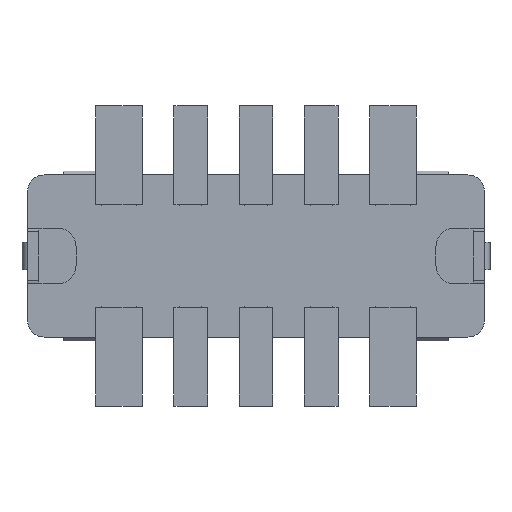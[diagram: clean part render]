
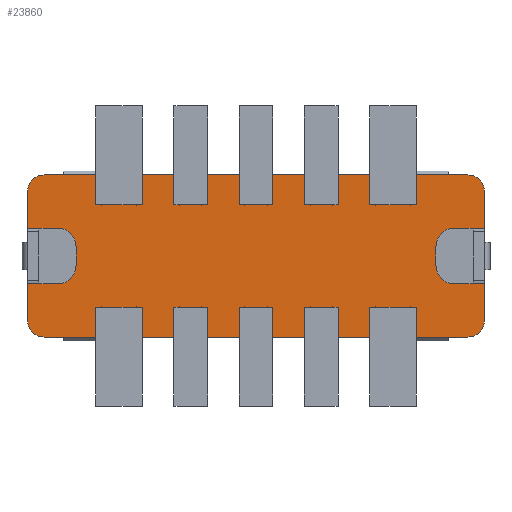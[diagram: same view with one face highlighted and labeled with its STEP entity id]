
A CAD part, front view. The second image highlights one B-rep face of the part: STEP entity #23860.
In plain terms, the highlighted planar face has unit normal (0, -1, 0) as drawn and (0, 1, 0) by its records, which use the part's own axes.
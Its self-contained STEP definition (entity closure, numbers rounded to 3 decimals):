
#15455=DIRECTION('',(1.,0.,0.));
#15456=VECTOR('',#15455,2.27);
#15457=CARTESIAN_POINT('',(-1.135,0.,-0.435));
#15458=LINE('',#15457,#15456);
#15549=CARTESIAN_POINT('',(1.135,0.,0.345));
#15550=DIRECTION('',(0.,1.,0.));
#15551=DIRECTION('',(0.,0.,1.));
#15552=AXIS2_PLACEMENT_3D('',#15549,#15550,#15551);
#15554=CARTESIAN_POINT('',(-1.135,0.,0.345));
#15555=DIRECTION('',(0.,1.,0.));
#15556=DIRECTION('',(-1.,0.,0.));
#15557=AXIS2_PLACEMENT_3D('',#15554,#15555,#15556);
#15559=CARTESIAN_POINT('',(-1.065,0.,0.05));
#15560=DIRECTION('',(0.,-1.,0.));
#15561=DIRECTION('',(1.,0.,0.));
#15562=AXIS2_PLACEMENT_3D('',#15559,#15560,#15561);
#15564=CARTESIAN_POINT('',(-1.065,0.,-0.05));
#15565=DIRECTION('',(0.,-1.,0.));
#15566=DIRECTION('',(0.,0.,-1.));
#15567=AXIS2_PLACEMENT_3D('',#15564,#15565,#15566);
#15569=CARTESIAN_POINT('',(-1.135,0.,-0.345));
#15570=DIRECTION('',(0.,1.,0.));
#15571=DIRECTION('',(0.,0.,-1.));
#15572=AXIS2_PLACEMENT_3D('',#15569,#15570,#15571);
#15574=CARTESIAN_POINT('',(1.135,0.,-0.345));
#15575=DIRECTION('',(0.,1.,0.));
#15576=DIRECTION('',(1.,0.,0.));
#15577=AXIS2_PLACEMENT_3D('',#15574,#15575,#15576);
#15579=CARTESIAN_POINT('',(1.065,0.,-0.05));
#15580=DIRECTION('',(0.,-1.,0.));
#15581=DIRECTION('',(-1.,0.,0.));
#15582=AXIS2_PLACEMENT_3D('',#15579,#15580,#15581);
#15584=CARTESIAN_POINT('',(1.065,0.,0.05));
#15585=DIRECTION('',(0.,-1.,0.));
#15586=DIRECTION('',(0.,0.,1.));
#15587=AXIS2_PLACEMENT_3D('',#15584,#15585,#15586);
#15589=DIRECTION('',(0.,0.,1.));
#15590=VECTOR('',#15589,0.195);
#15591=CARTESIAN_POINT('',(1.225,0.,-0.345));
#15592=LINE('',#15591,#15590);
#15593=DIRECTION('',(0.,0.,1.));
#15594=VECTOR('',#15593,0.195);
#15595=CARTESIAN_POINT('',(1.225,0.,0.15));
#15596=LINE('',#15595,#15594);
#15597=DIRECTION('',(-1.,0.,0.));
#15598=VECTOR('',#15597,0.16);
#15599=CARTESIAN_POINT('',(1.225,0.,-0.15));
#15600=LINE('',#15599,#15598);
#15639=DIRECTION('',(0.,0.,1.));
#15640=VECTOR('',#15639,0.1);
#15641=CARTESIAN_POINT('',(0.965,0.,-0.05));
#15642=LINE('',#15641,#15640);
#15655=DIRECTION('',(1.,0.,0.));
#15656=VECTOR('',#15655,0.16);
#15657=CARTESIAN_POINT('',(1.065,0.,0.15));
#15658=LINE('',#15657,#15656);
#15735=DIRECTION('',(0.,0.,-1.));
#15736=VECTOR('',#15735,0.195);
#15737=CARTESIAN_POINT('',(-1.225,0.,-0.15));
#15738=LINE('',#15737,#15736);
#15739=DIRECTION('',(0.,0.,-1.));
#15740=VECTOR('',#15739,0.195);
#15741=CARTESIAN_POINT('',(-1.225,0.,0.345));
#15742=LINE('',#15741,#15740);
#15747=DIRECTION('',(-1.,0.,0.));
#15748=VECTOR('',#15747,0.16);
#15749=CARTESIAN_POINT('',(-1.065,0.,-0.15));
#15750=LINE('',#15749,#15748);
#15785=DIRECTION('',(1.,0.,0.));
#15786=VECTOR('',#15785,0.16);
#15787=CARTESIAN_POINT('',(-1.225,0.,0.15));
#15788=LINE('',#15787,#15786);
#15793=DIRECTION('',(0.,0.,-1.));
#15794=VECTOR('',#15793,0.1);
#15795=CARTESIAN_POINT('',(-0.965,0.,0.05));
#15796=LINE('',#15795,#15794);
#15982=DIRECTION('',(-1.,0.,0.));
#15983=VECTOR('',#15982,2.27);
#15984=CARTESIAN_POINT('',(1.135,0.,0.435));
#15985=LINE('',#15984,#15983);
#22006=CARTESIAN_POINT('',(1.225,0.,0.345));
#22008=VERTEX_POINT('',#22006);
#22145=CARTESIAN_POINT('',(-1.135,0.,-0.435));
#22147=VERTEX_POINT('',#22145);
#22225=CARTESIAN_POINT('',(-0.965,0.,0.05));
#22226=CARTESIAN_POINT('',(-1.065,0.,0.15));
#22227=VERTEX_POINT('',#22225);
#22228=VERTEX_POINT('',#22226);
#22229=CARTESIAN_POINT('',(-1.225,0.,0.345));
#22231=VERTEX_POINT('',#22229);
#22495=CARTESIAN_POINT('',(-1.225,0.,-0.15));
#22496=VERTEX_POINT('',#22495);
#22560=CARTESIAN_POINT('',(1.225,0.,-0.345));
#22561=CARTESIAN_POINT('',(1.135,0.,-0.435));
#22562=VERTEX_POINT('',#22560);
#22563=VERTEX_POINT('',#22561);
#22640=CARTESIAN_POINT('',(-1.065,0.,-0.15));
#22641=VERTEX_POINT('',#22640);
#22738=CARTESIAN_POINT('',(0.965,0.,-0.05));
#22739=VERTEX_POINT('',#22738);
#22740=CARTESIAN_POINT('',(-1.135,0.,0.435));
#22741=VERTEX_POINT('',#22740);
#22770=CARTESIAN_POINT('',(1.065,0.,0.15));
#22771=CARTESIAN_POINT('',(1.225,0.,0.15));
#22772=VERTEX_POINT('',#22770);
#22773=VERTEX_POINT('',#22771);
#23004=CARTESIAN_POINT('',(0.965,0.,0.05));
#23005=VERTEX_POINT('',#23004);
#23133=CARTESIAN_POINT('',(-0.965,0.,-0.05));
#23134=VERTEX_POINT('',#23133);
#23198=CARTESIAN_POINT('',(1.225,0.,-0.15));
#23200=VERTEX_POINT('',#23198);
#23245=CARTESIAN_POINT('',(-1.225,0.,-0.345));
#23246=VERTEX_POINT('',#23245);
#23307=CARTESIAN_POINT('',(1.135,0.,0.435));
#23308=VERTEX_POINT('',#23307);
#23339=CARTESIAN_POINT('',(1.065,0.,-0.15));
#23340=VERTEX_POINT('',#23339);
#23426=CARTESIAN_POINT('',(-1.225,0.,0.15));
#23427=VERTEX_POINT('',#23426);
#23815=CARTESIAN_POINT('',(0.,0.,0.));
#23816=DIRECTION('',(0.,-1.,0.));
#23817=DIRECTION('',(0.,0.,-1.));
#23818=AXIS2_PLACEMENT_3D('',#23815,#23816,#23817);
#23819=PLANE('',#23818);
#23821=ORIENTED_EDGE('',*,*,#23820,.T.);
#23823=ORIENTED_EDGE('',*,*,#23822,.F.);
#23825=ORIENTED_EDGE('',*,*,#23824,.T.);
#23827=ORIENTED_EDGE('',*,*,#23826,.F.);
#23829=ORIENTED_EDGE('',*,*,#23828,.T.);
#23831=ORIENTED_EDGE('',*,*,#23830,.T.);
#23833=ORIENTED_EDGE('',*,*,#23832,.F.);
#23835=ORIENTED_EDGE('',*,*,#23834,.T.);
#23837=ORIENTED_EDGE('',*,*,#23836,.F.);
#23839=ORIENTED_EDGE('',*,*,#23838,.T.);
#23841=ORIENTED_EDGE('',*,*,#23840,.T.);
#23842=ORIENTED_EDGE('',*,*,#23804,.F.);
#23843=ORIENTED_EDGE('',*,*,#23681,.T.);
#23845=ORIENTED_EDGE('',*,*,#23844,.F.);
#23847=ORIENTED_EDGE('',*,*,#23846,.T.);
#23849=ORIENTED_EDGE('',*,*,#23848,.T.);
#23851=ORIENTED_EDGE('',*,*,#23850,.F.);
#23853=ORIENTED_EDGE('',*,*,#23852,.T.);
#23855=ORIENTED_EDGE('',*,*,#23854,.F.);
#23857=ORIENTED_EDGE('',*,*,#23856,.T.);
#23858=EDGE_LOOP('',(#23821,#23823,#23825,#23827,#23829,#23831,#23833,#23835,
#23837,#23839,#23841,#23842,#23843,#23845,#23847,#23849,#23851,#23853,#23855,
#23857));
#23859=FACE_OUTER_BOUND('',#23858,.F.);
#15553=CIRCLE('',#15552,0.09);
#15558=CIRCLE('',#15557,0.09);
#15563=CIRCLE('',#15562,0.1);
#15568=CIRCLE('',#15567,0.1);
#15573=CIRCLE('',#15572,0.09);
#15578=CIRCLE('',#15577,0.09);
#15583=CIRCLE('',#15582,0.1);
#15588=CIRCLE('',#15587,0.1);
#23681=EDGE_CURVE('',#22147,#22563,#15458,.T.);
#23804=EDGE_CURVE('',#22147,#23246,#15573,.T.);
#23820=EDGE_CURVE('',#22773,#22008,#15596,.T.);
#23822=EDGE_CURVE('',#23308,#22008,#15553,.T.);
#23824=EDGE_CURVE('',#23308,#22741,#15985,.T.);
#23826=EDGE_CURVE('',#22231,#22741,#15558,.T.);
#23828=EDGE_CURVE('',#22231,#23427,#15742,.T.);
#23830=EDGE_CURVE('',#23427,#22228,#15788,.T.);
#23832=EDGE_CURVE('',#22227,#22228,#15563,.T.);
#23834=EDGE_CURVE('',#22227,#23134,#15796,.T.);
#23836=EDGE_CURVE('',#22641,#23134,#15568,.T.);
#23838=EDGE_CURVE('',#22641,#22496,#15750,.T.);
#23840=EDGE_CURVE('',#22496,#23246,#15738,.T.);
#23844=EDGE_CURVE('',#22562,#22563,#15578,.T.);
#23846=EDGE_CURVE('',#22562,#23200,#15592,.T.);
#23848=EDGE_CURVE('',#23200,#23340,#15600,.T.);
#23850=EDGE_CURVE('',#22739,#23340,#15583,.T.);
#23852=EDGE_CURVE('',#22739,#23005,#15642,.T.);
#23854=EDGE_CURVE('',#22772,#23005,#15588,.T.);
#23856=EDGE_CURVE('',#22772,#22773,#15658,.T.);
#23860=ADVANCED_FACE('',(#23859),#23819,.F.);
